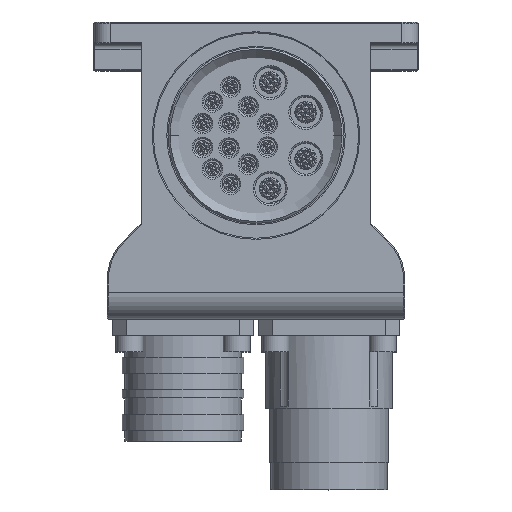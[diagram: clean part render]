
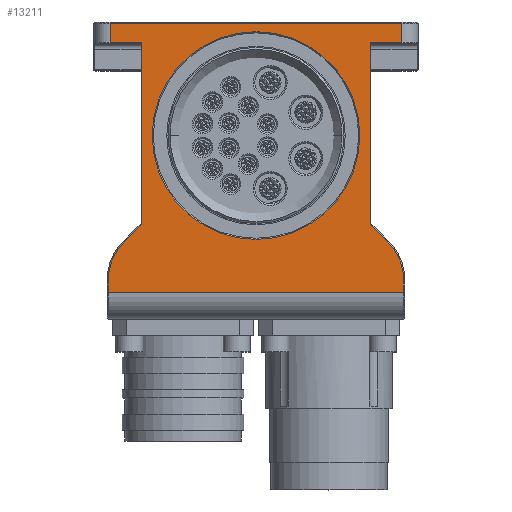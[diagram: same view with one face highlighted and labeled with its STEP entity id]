
A CAD part, top view. The second image highlights one B-rep face of the part: STEP entity #13211.
In plain terms, the highlighted planar face has unit normal (0, 0, 1).
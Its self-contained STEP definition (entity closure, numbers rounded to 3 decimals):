
#274 = CARTESIAN_POINT ( 'NONE',  ( -27., 21.05, 0. ) ) ;
#1247 = LINE ( 'NONE', #19612, #20232 ) ;
#1595 = ORIENTED_EDGE ( 'NONE', *, *, #28697, .T. ) ;
#1740 = CARTESIAN_POINT ( 'NONE',  ( 27., 17.45, 0. ) ) ;
#2294 = ORIENTED_EDGE ( 'NONE', *, *, #32718, .T. ) ;
#2557 = DIRECTION ( 'NONE',  ( 0., 0., 1. ) ) ;
#3073 = VECTOR ( 'NONE', #6230, 1000. ) ;
#3229 = FACE_BOUND ( 'NONE', #6725, .T. ) ;
#3284 = CARTESIAN_POINT ( 'NONE',  ( 21.25, 17.45, 0. ) ) ;
#4397 = VECTOR ( 'NONE', #18708, 1000. ) ;
#4617 = CARTESIAN_POINT ( 'NONE',  ( -27.3, 0., 0. ) ) ;
#4872 = DIRECTION ( 'NONE',  ( 0., -1., 0. ) ) ;
#5058 = CARTESIAN_POINT ( 'NONE',  ( -27.3, -26.434, 0. ) ) ;
#5093 = AXIS2_PLACEMENT_3D ( 'NONE', #5652, #11160, #14017 ) ;
#5114 = VECTOR ( 'NONE', #26838, 1000. ) ;
#5481 = PLANE ( 'NONE',  #35134 ) ;
#5533 = CARTESIAN_POINT ( 'NONE',  ( -27., 0., 0. ) ) ;
#5652 = CARTESIAN_POINT ( 'NONE',  ( 17.4, -26.434, 0. ) ) ;
#5837 = LINE ( 'NONE', #33212, #23645 ) ;
#5891 = ORIENTED_EDGE ( 'NONE', *, *, #23887, .T. ) ;
#5935 = DIRECTION ( 'NONE',  ( 0., 0., 1. ) ) ;
#6181 = LINE ( 'NONE', #5533, #29561 ) ;
#6230 = DIRECTION ( 'NONE',  ( 0., 1., 0. ) ) ;
#6427 = CARTESIAN_POINT ( 'NONE',  ( 21.109, -16.141, 0. ) ) ;
#6725 = EDGE_LOOP ( 'NONE', ( #31741, #2294 ) ) ;
#7993 = VERTEX_POINT ( 'NONE', #5058 ) ;
#8115 = VECTOR ( 'NONE', #29958, 1000. ) ;
#8431 = VECTOR ( 'NONE', #25681, 1000. ) ;
#9031 = AXIS2_PLACEMENT_3D ( 'NONE', #31410, #15210, #31745 ) ;
#9552 = VERTEX_POINT ( 'NONE', #24503 ) ;
#9920 = ORIENTED_EDGE ( 'NONE', *, *, #11529, .T. ) ;
#9926 = VERTEX_POINT ( 'NONE', #1740 ) ;
#9963 = VERTEX_POINT ( 'NONE', #35048 ) ;
#11160 = DIRECTION ( 'NONE',  ( 0., 0., 1. ) ) ;
#11217 = AXIS2_PLACEMENT_3D ( 'NONE', #14009, #24726, #27594 ) ;
#11357 = ORIENTED_EDGE ( 'NONE', *, *, #17839, .T. ) ;
#11529 = EDGE_CURVE ( 'NONE', #24810, #29020, #23720, .T. ) ;
#11993 = CARTESIAN_POINT ( 'NONE',  ( 27., 21.25, 0. ) ) ;
#12469 = ORIENTED_EDGE ( 'NONE', *, *, #20082, .T. ) ;
#12717 = VERTEX_POINT ( 'NONE', #3284 ) ;
#13211 = ADVANCED_FACE ( 'NONE', ( #22704, #3229 ), #5481, .T. ) ;
#13251 = LINE ( 'NONE', #15370, #14086 ) ;
#13639 = VERTEX_POINT ( 'NONE', #16769 ) ;
#13886 = ORIENTED_EDGE ( 'NONE', *, *, #16314, .T. ) ;
#13954 = CARTESIAN_POINT ( 'NONE',  ( 21.25, -16.283, 0. ) ) ;
#14009 = CARTESIAN_POINT ( 'NONE',  ( 0., 0.25, 0. ) ) ;
#14017 = DIRECTION ( 'NONE',  ( 1., 0., 0. ) ) ;
#14086 = VECTOR ( 'NONE', #4872, 1000. ) ;
#14247 = EDGE_CURVE ( 'NONE', #35001, #18908, #26066, .T. ) ;
#15077 = EDGE_CURVE ( 'NONE', #12717, #25168, #13251, .T. ) ;
#15210 = DIRECTION ( 'NONE',  ( 0., 0., -1. ) ) ;
#15249 = VECTOR ( 'NONE', #25409, 1000. ) ;
#15370 = CARTESIAN_POINT ( 'NONE',  ( 21.25, 14.75, 0. ) ) ;
#15633 = LINE ( 'NONE', #20256, #8431 ) ;
#15686 = LINE ( 'NONE', #24304, #5114 ) ;
#15919 = ORIENTED_EDGE ( 'NONE', *, *, #23404, .T. ) ;
#16314 = EDGE_CURVE ( 'NONE', #9926, #13639, #29782, .T. ) ;
#16704 = LINE ( 'NONE', #24957, #29089 ) ;
#16769 = CARTESIAN_POINT ( 'NONE',  ( 27., 21.05, 0. ) ) ;
#16838 = DIRECTION ( 'NONE',  ( 0., 1., 0. ) ) ;
#16936 = EDGE_CURVE ( 'NONE', #29020, #25168, #22468, .T. ) ;
#17736 = LINE ( 'NONE', #4617, #27985 ) ;
#17839 = EDGE_CURVE ( 'NONE', #13639, #24946, #1247, .T. ) ;
#17841 = AXIS2_PLACEMENT_3D ( 'NONE', #27225, #2557, #29838 ) ;
#18152 = VERTEX_POINT ( 'NONE', #27747 ) ;
#18205 = VERTEX_POINT ( 'NONE', #28555 ) ;
#18708 = DIRECTION ( 'NONE',  ( -0.707, -0.707, 0. ) ) ;
#18849 = ORIENTED_EDGE ( 'NONE', *, *, #26637, .T. ) ;
#18908 = VERTEX_POINT ( 'NONE', #29574 ) ;
#19320 = DIRECTION ( 'NONE',  ( 0., -1., 0. ) ) ;
#19406 = ORIENTED_EDGE ( 'NONE', *, *, #32454, .T. ) ;
#19612 = CARTESIAN_POINT ( 'NONE',  ( -27., 21.05, 0. ) ) ;
#19780 = CARTESIAN_POINT ( 'NONE',  ( 27.3, -28.75, 0. ) ) ;
#20082 = EDGE_CURVE ( 'NONE', #24946, #20255, #6181, .T. ) ;
#20161 = CIRCLE ( 'NONE', #9031, 19.2 ) ;
#20232 = VECTOR ( 'NONE', #26059, 1000. ) ;
#20255 = VERTEX_POINT ( 'NONE', #33643 ) ;
#20256 = CARTESIAN_POINT ( 'NONE',  ( 0., 17.45, 0. ) ) ;
#20456 = LINE ( 'NONE', #21333, #4397 ) ;
#21333 = CARTESIAN_POINT ( 'NONE',  ( -24.4, -19.433, 0. ) ) ;
#21667 = LINE ( 'NONE', #24938, #8115 ) ;
#21670 = EDGE_CURVE ( 'NONE', #18205, #9552, #20456, .T. ) ;
#21678 = DIRECTION ( 'NONE',  ( 1., 0., 0. ) ) ;
#22150 = CARTESIAN_POINT ( 'NONE',  ( 0., 0., 0. ) ) ;
#22468 = LINE ( 'NONE', #6427, #15249 ) ;
#22704 = FACE_OUTER_BOUND ( 'NONE', #33148, .T. ) ;
#23404 = EDGE_CURVE ( 'NONE', #20255, #18152, #15686, .T. ) ;
#23452 = CIRCLE ( 'NONE', #17841, 9.9 ) ;
#23645 = VECTOR ( 'NONE', #32984, 1000. ) ;
#23720 = CIRCLE ( 'NONE', #5093, 9.9 ) ;
#23787 = DIRECTION ( 'NONE',  ( 0., -1., 0. ) ) ;
#23887 = EDGE_CURVE ( 'NONE', #7993, #9963, #17736, .T. ) ;
#24304 = CARTESIAN_POINT ( 'NONE',  ( 0., 17.45, 0. ) ) ;
#24503 = CARTESIAN_POINT ( 'NONE',  ( -24.4, -19.433, 0. ) ) ;
#24726 = DIRECTION ( 'NONE',  ( 0., 0., -1. ) ) ;
#24810 = VERTEX_POINT ( 'NONE', #28741 ) ;
#24938 = CARTESIAN_POINT ( 'NONE',  ( -21.25, 14.75, 0. ) ) ;
#24946 = VERTEX_POINT ( 'NONE', #274 ) ;
#24957 = CARTESIAN_POINT ( 'NONE',  ( 27.3, -26.434, 0. ) ) ;
#25168 = VERTEX_POINT ( 'NONE', #13954 ) ;
#25409 = DIRECTION ( 'NONE',  ( -0.707, 0.707, 0. ) ) ;
#25435 = EDGE_CURVE ( 'NONE', #9552, #7993, #23452, .T. ) ;
#25681 = DIRECTION ( 'NONE',  ( 1., 0., 0. ) ) ;
#26059 = DIRECTION ( 'NONE',  ( -1., 0., 0. ) ) ;
#26066 = CIRCLE ( 'NONE', #11217, 19.2 ) ;
#26089 = ORIENTED_EDGE ( 'NONE', *, *, #15077, .F. ) ;
#26334 = VERTEX_POINT ( 'NONE', #19780 ) ;
#26637 = EDGE_CURVE ( 'NONE', #18152, #18205, #21667, .T. ) ;
#26838 = DIRECTION ( 'NONE',  ( 1., 0., 0. ) ) ;
#27138 = ORIENTED_EDGE ( 'NONE', *, *, #21670, .T. ) ;
#27225 = CARTESIAN_POINT ( 'NONE',  ( -17.4, -26.434, 0. ) ) ;
#27594 = DIRECTION ( 'NONE',  ( 1., 0., 0. ) ) ;
#27747 = CARTESIAN_POINT ( 'NONE',  ( -21.25, 17.45, 0. ) ) ;
#27985 = VECTOR ( 'NONE', #23787, 1000. ) ;
#28123 = ORIENTED_EDGE ( 'NONE', *, *, #25435, .T. ) ;
#28555 = CARTESIAN_POINT ( 'NONE',  ( -21.25, -16.283, 0. ) ) ;
#28697 = EDGE_CURVE ( 'NONE', #12717, #9926, #15633, .T. ) ;
#28741 = CARTESIAN_POINT ( 'NONE',  ( 27.3, -26.434, 0. ) ) ;
#29020 = VERTEX_POINT ( 'NONE', #32663 ) ;
#29089 = VECTOR ( 'NONE', #16838, 1000. ) ;
#29561 = VECTOR ( 'NONE', #19320, 1000. ) ;
#29574 = CARTESIAN_POINT ( 'NONE',  ( -19.2, 0.25, 0. ) ) ;
#29782 = LINE ( 'NONE', #11993, #3073 ) ;
#29838 = DIRECTION ( 'NONE',  ( 1., 0., 0. ) ) ;
#29958 = DIRECTION ( 'NONE',  ( 0., -1., 0. ) ) ;
#31243 = EDGE_CURVE ( 'NONE', #26334, #24810, #16704, .T. ) ;
#31410 = CARTESIAN_POINT ( 'NONE',  ( 0., 0.25, 0. ) ) ;
#31741 = ORIENTED_EDGE ( 'NONE', *, *, #14247, .T. ) ;
#31745 = DIRECTION ( 'NONE',  ( 1., 0., 0. ) ) ;
#32454 = EDGE_CURVE ( 'NONE', #9963, #26334, #5837, .T. ) ;
#32462 = CARTESIAN_POINT ( 'NONE',  ( 19.2, 0.25, 0. ) ) ;
#32663 = CARTESIAN_POINT ( 'NONE',  ( 24.4, -19.433, 0. ) ) ;
#32718 = EDGE_CURVE ( 'NONE', #18908, #35001, #20161, .T. ) ;
#32984 = DIRECTION ( 'NONE',  ( 1., 0., 0. ) ) ;
#33068 = ORIENTED_EDGE ( 'NONE', *, *, #16936, .T. ) ;
#33148 = EDGE_LOOP ( 'NONE', ( #12469, #15919, #18849, #27138, #28123, #5891, #19406, #33311, #9920, #33068, #26089, #1595, #13886, #11357 ) ) ;
#33212 = CARTESIAN_POINT ( 'NONE',  ( 0., -28.75, 0. ) ) ;
#33311 = ORIENTED_EDGE ( 'NONE', *, *, #31243, .T. ) ;
#33643 = CARTESIAN_POINT ( 'NONE',  ( -27., 17.45, 0. ) ) ;
#35001 = VERTEX_POINT ( 'NONE', #32462 ) ;
#35048 = CARTESIAN_POINT ( 'NONE',  ( -27.3, -28.75, 0. ) ) ;
#35134 = AXIS2_PLACEMENT_3D ( 'NONE', #22150, #5935, #21678 ) ;
